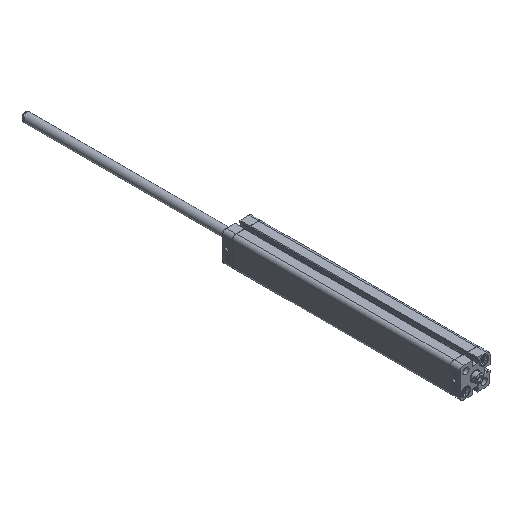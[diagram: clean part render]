
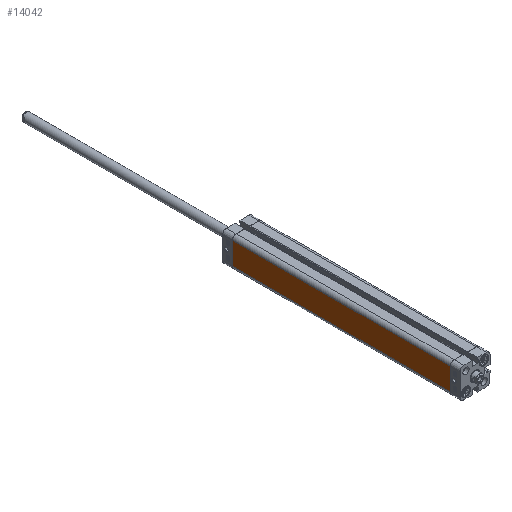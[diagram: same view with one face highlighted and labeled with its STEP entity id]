
A CAD part, isometric view. The second image highlights one B-rep face of the part: STEP entity #14042.
In plain terms, the highlighted planar face has unit normal (-1, 0, 0).
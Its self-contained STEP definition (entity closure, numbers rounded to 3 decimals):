
#787=PLANE('',#14945);
#1518=LINE('',#21438,#2358);
#1546=LINE('',#21551,#2386);
#1628=LINE('',#21771,#2468);
#1629=LINE('',#21773,#2469);
#2358=VECTOR('',#17210,1000.);
#2386=VECTOR('',#17296,1000.);
#2468=VECTOR('',#17542,1000.);
#2469=VECTOR('',#17545,1000.);
#5221=ORIENTED_EDGE('',*,*,#6573,.T.);
#5222=ORIENTED_EDGE('',*,*,#6739,.T.);
#5223=ORIENTED_EDGE('',*,*,#6740,.T.);
#5224=ORIENTED_EDGE('',*,*,#6629,.F.);
#6573=EDGE_CURVE('',#7631,#7632,#1518,.T.);
#6629=EDGE_CURVE('',#7631,#7687,#1546,.T.);
#6739=EDGE_CURVE('',#7632,#7742,#1628,.T.);
#6740=EDGE_CURVE('',#7742,#7687,#1629,.T.);
#7631=VERTEX_POINT('',#21439);
#7632=VERTEX_POINT('',#21440);
#7687=VERTEX_POINT('',#21552);
#7742=VERTEX_POINT('',#21770);
#8884=EDGE_LOOP('',(#5221,#5222,#5223,#5224));
#9656=FACE_BOUND('',#8884,.T.);
#14042=ADVANCED_FACE('',(#9656),#787,.T.);
#14945=AXIS2_PLACEMENT_3D('',#21772,#17543,#17544);
#17210=DIRECTION('',(0.,0.,-1.));
#17296=DIRECTION('',(0.,-1.,0.));
#17542=DIRECTION('',(0.,-1.,0.));
#17543=DIRECTION('',(-1.,0.,0.));
#17544=DIRECTION('',(0.,0.,1.));
#17545=DIRECTION('',(0.,0.,1.));
#21438=CARTESIAN_POINT('',(-18.,9.25,13.5));
#21439=CARTESIAN_POINT('',(-18.,9.25,13.5));
#21440=CARTESIAN_POINT('',(-18.,9.25,-13.5));
#21551=CARTESIAN_POINT('',(-18.,9.25,13.5));
#21552=CARTESIAN_POINT('',(-18.,-254.15,13.5));
#21770=CARTESIAN_POINT('',(-18.,-254.15,-13.5));
#21771=CARTESIAN_POINT('',(-18.,9.25,-13.5));
#21772=CARTESIAN_POINT('',(-18.,0.,13.5));
#21773=CARTESIAN_POINT('',(-18.,-254.15,-13.5));
